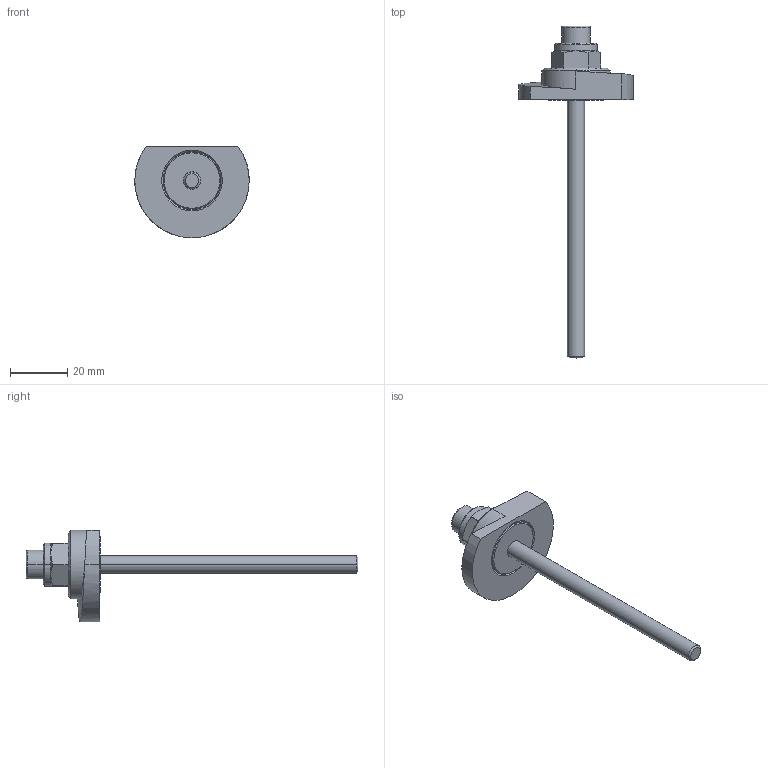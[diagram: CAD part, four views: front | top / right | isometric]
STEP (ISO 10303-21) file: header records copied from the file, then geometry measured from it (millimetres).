
FILE_DESCRIPTION (( 'STEP AP214' ), '1' );
FILE_NAME ('918.1-40-SKS-L-90.step', '2024-05-15T13:01:05', ( '' ), ( '' ), 'SwSTEP 2.0', 'SolidWorks 2022', '' );
FILE_SCHEMA (( 'AUTOMOTIVE_DESIGN' ));
Length unit declared in the file: millimetre
Products named in the file (1): 918.1-40-SKS-L-90
Bounding box: 40 x 116 x 32 mm (x, y, z)
Volume: 13494.7 mm3; surface area: 7904.9 mm2
Topology: 1 solids, 2 shells, 80 faces, 179 edges, 112 vertices
Faces by surface type: cylinder 27, plane 26, cone 22, bspline 3, torus 2
Entity records: 2599 total; most frequent: CARTESIAN_POINT 777, DIRECTION 390, ORIENTED_EDGE 358, EDGE_CURVE 179, AXIS2_PLACEMENT_3D 157, VERTEX_POINT 112, EDGE_LOOP 91, FACE_OUTER_BOUND 80
